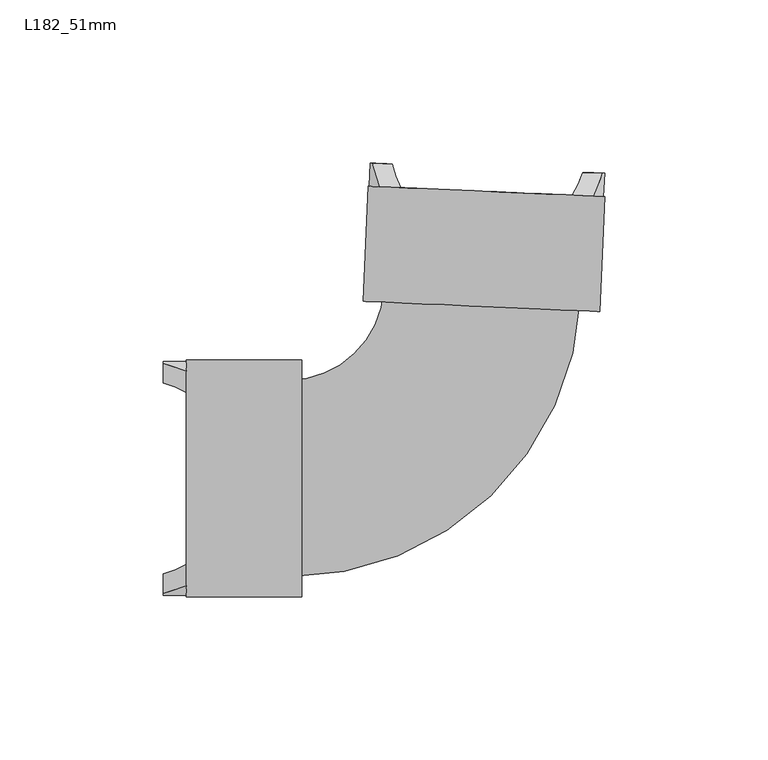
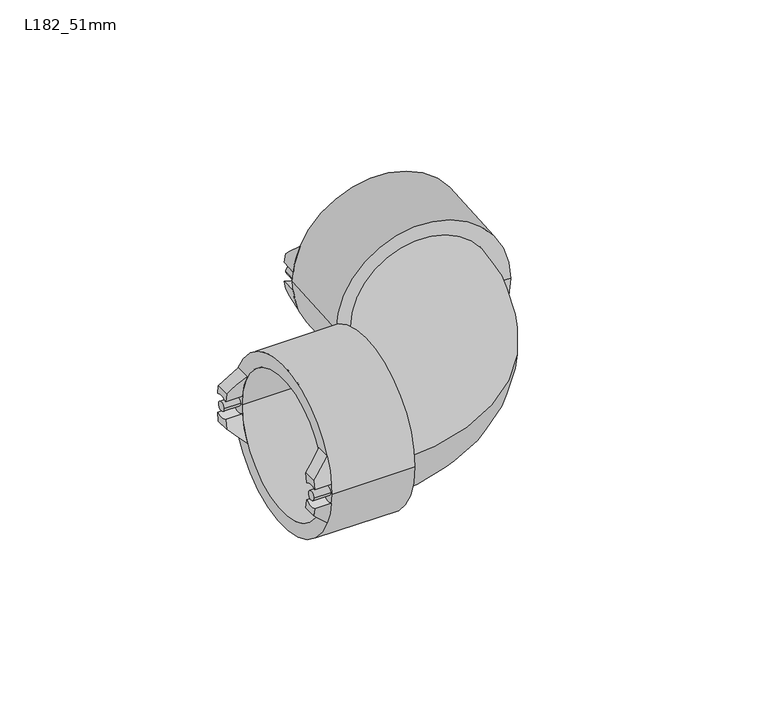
"""IFC4 building model written with IfcOpenShell, lengths in millimetres: pipe fitting geometry, Durapipe_PipeFitting_VulcatheneEnfusion_DoubleSocketShortSweepBend_L18 : L182_51mm."""

from ifc_helpers import new_model, si_unit, point, frame, frame_2d, origin, place, context, project, spatial, polyline, circle_curve, ellipse_curve, trimmed, segment, composite_curve, outline, extrude, source, transform, mapped, element, save
from ifc_brep_helpers import plane_surface, cylinder_surface, revolved_surface, advanced_brep


def l182_51mm_86aa85f2(model_context):
    return source(origin(), model_context, "Body", "SolidModel", [
        advanced_brep(
        [(-25.8725968, 96.3919618, 3.864639), (-31.7170289, 96.6471352, 4.2226571), (-31.0823531, 96.6194246, 7.94), (-25.0620153, 96.356571, 7.94), (-29.0181329, 89.4225348, 15.0), (-32.0267265, 89.5538928, 4.2226571), (-26.1822944, 89.2987194, 3.864639), (-22.4599131, 89.1361967, 15.0)],
        [
            (0, 1, circle_curve(frame((-29.0420472, 96.5303429, 0.0), z_axis=(-0.043619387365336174, -0.9990482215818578, 0.0), x_axis=(0.9990482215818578, -0.043619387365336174, 0.0)), 5.0)),
            (1, 2, circle_curve(frame((4.15133, 95.0810888, 0.0), z_axis=(0.043619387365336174, 0.9990482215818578, 0.0), x_axis=(0.9990482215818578, -0.043619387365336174, 0.0)), 36.15)),
            (2, 3),
            (3, 0, circle_curve(frame((4.15133, 95.0810888, 0.0), z_axis=(-0.043619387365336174, -0.9990482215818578, 0.0), x_axis=(0.9990482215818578, -0.043619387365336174, 0.0)), 30.3)),
            (4, 5, circle_curve(frame((3.8416323, 87.9878464, 0.0), z_axis=(-0.043619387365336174, -0.9990482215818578, 0.0), x_axis=(0.9990482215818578, -0.043619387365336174, 0.0)), 36.15)),
            (5, 6, circle_curve(frame((-29.3517448, 89.4371006, 0.0), z_axis=(0.043619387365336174, 0.9990482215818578, 0.0), x_axis=(0.9990482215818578, -0.043619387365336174, 0.0)), 5.0)),
            (6, 7, circle_curve(frame((3.8416323, 87.9878464, 0.0), z_axis=(0.043619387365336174, 0.9990482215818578, 0.0), x_axis=(0.9990482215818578, -0.043619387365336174, 0.0)), 30.3)),
            (7, 4),
            (6, 0),
            (3, 7, ellipse_curve(frame((4.4996302, 103.0584747, 0.0), z_axis=(0.030756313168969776, 0.7044353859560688, 0.7091014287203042), x_axis=(-0.030930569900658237, -0.7084265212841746, 0.705106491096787)), 42.9722324, 30.3)),
            (4, 2, ellipse_curve(frame((4.4996302, 103.0584747, 0.0), z_axis=(-0.030756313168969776, -0.7044353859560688, -0.7091014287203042), x_axis=(0.030930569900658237, 0.7084265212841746, -0.705106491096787)), 51.2688515, 36.15)),
            (1, 5),
        ],
        [
            plane_surface(frame((-28.7084352, 96.5157771, 15.0), z_axis=(0.043619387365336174, 0.9990482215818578, 0.0), x_axis=(0.9990482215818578, -0.043619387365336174, 0.0))),
            plane_surface(frame((-29.0181329, 89.4225348, 15.0), z_axis=(-0.043619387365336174, -0.9990482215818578, 0.0), x_axis=(-0.9990482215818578, 0.043619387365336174, 0.0))),
            revolved_surface(polyline([(33.441635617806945, 71.2941381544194, 0.0), (36.099946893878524, 132.17947637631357, 0.0)]), (3.8416323, 87.9878464, 0.0), (-0.043619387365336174, -0.9990482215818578, 0.0)),
            cylinder_surface(frame((3.8416323, 87.9878464, 0.0), z_axis=(0.043619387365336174, 0.9990482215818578, 0.0), x_axis=(0.9990482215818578, -0.043619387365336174, 0.0)), 36.15),
            revolved_surface(polyline([(-24.046806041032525, 96.31224605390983, 0.0), (-24.356503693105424, 89.21900363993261, 0.0)]), (-29.3517448, 89.4371006, 0.0), (0.043619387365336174, 0.9990482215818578, 0.0)),
            plane_surface(frame((39.9572255, 86.4110056, 15.0), z_axis=(0.030756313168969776, 0.7044353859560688, 0.7091014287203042), x_axis=(-0.9990482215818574, 0.04361938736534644, 0.0))),
        ],
        [
            (0, [[1, 2, 3, 4]]),
            (1, [[5, 6, 7, 8]]),
            (2, [[-7, 9, -4, 10]]),
            (3, [[-5, 11, -2, 12]]),
            (4, [[-1, -9, -6, -12]]),
            (5, [[-3, -11, -8, -10]]),
        ],
    ),
        advanced_brep(
        [(-31.7170289, 96.6471352, -4.2226571), (-25.8725968, 96.3919618, -3.864639), (-25.0620153, 96.356571, -7.94), (-31.0823531, 96.6194246, -7.94), (-32.0267265, 89.5538928, -4.2226571), (-29.0181329, 89.4225348, -15.0), (-22.4599131, 89.1361967, -15.0), (-26.1822944, 89.2987194, -3.864639)],
        [
            (0, 1, circle_curve(frame((-29.0420472, 96.5303429, 0.0), z_axis=(-0.043619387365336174, -0.9990482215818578, 0.0), x_axis=(0.9990482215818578, -0.043619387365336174, 0.0)), 5.0)),
            (1, 2, circle_curve(frame((4.15133, 95.0810888, 0.0), z_axis=(-0.043619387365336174, -0.9990482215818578, 0.0), x_axis=(0.9990482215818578, -0.043619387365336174, 0.0)), 30.3)),
            (2, 3),
            (3, 0, circle_curve(frame((4.15133, 95.0810888, 0.0), z_axis=(0.043619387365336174, 0.9990482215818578, 0.0), x_axis=(0.9990482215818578, -0.043619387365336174, 0.0)), 36.15)),
            (4, 5, circle_curve(frame((3.8416323, 87.9878464, 0.0), z_axis=(-0.043619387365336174, -0.9990482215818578, 0.0), x_axis=(0.9990482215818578, -0.043619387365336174, 0.0)), 36.15)),
            (5, 6),
            (6, 7, circle_curve(frame((3.8416323, 87.9878464, 0.0), z_axis=(0.043619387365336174, 0.9990482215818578, 0.0), x_axis=(0.9990482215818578, -0.043619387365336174, 0.0)), 30.3)),
            (7, 4, circle_curve(frame((-29.3517448, 89.4371006, 0.0), z_axis=(0.043619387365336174, 0.9990482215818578, 0.0), x_axis=(0.9990482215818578, -0.043619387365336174, 0.0)), 5.0)),
            (6, 2, ellipse_curve(frame((4.4996302, 103.0584747, 0.0), z_axis=(0.03075631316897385, 0.7044353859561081, -0.7091014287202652), x_axis=(-0.03093056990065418, -0.7084265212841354, -0.7051064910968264)), 42.9722324, 30.3)),
            (1, 7),
            (4, 0),
            (3, 5, ellipse_curve(frame((4.4996302, 103.0584747, 0.0), z_axis=(-0.03075631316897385, -0.7044353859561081, 0.7091014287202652), x_axis=(0.03093056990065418, 0.7084265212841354, 0.7051064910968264)), 51.2688515, 36.15)),
        ],
        [
            plane_surface(frame((-28.7084352, 96.5157771, 15.0), z_axis=(0.043619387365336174, 0.9990482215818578, 0.0), x_axis=(0.9990482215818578, -0.043619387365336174, 0.0))),
            plane_surface(frame((-29.0181329, 89.4225348, 15.0), z_axis=(-0.043619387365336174, -0.9990482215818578, 0.0), x_axis=(-0.9990482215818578, 0.043619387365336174, 0.0))),
            revolved_surface(polyline([(33.441635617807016, 71.29413815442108, 0.0), (36.099946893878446, 132.1794763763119, 0.0)]), (3.8416323, 87.9878464, 0.0), (-0.043619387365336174, -0.9990482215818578, 0.0)),
            cylinder_surface(frame((3.8416323, 87.9878464, 0.0), z_axis=(0.043619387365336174, 0.9990482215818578, 0.0), x_axis=(0.9990482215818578, -0.043619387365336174, 0.0)), 36.15),
            revolved_surface(polyline([(-24.046806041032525, 96.31224605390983, 0.0), (-24.356503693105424, 89.21900363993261, 0.0)]), (-29.3517448, 89.4371006, 0.0), (0.043619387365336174, 0.9990482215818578, 0.0)),
            plane_surface(frame((40.2669232, 93.5042479, -7.94), z_axis=(0.03075631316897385, 0.7044353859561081, -0.7091014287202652), x_axis=(-0.9990482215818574, 0.04361938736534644, 0.0))),
        ],
        [
            (0, [[1, 2, 3, 4]]),
            (1, [[5, 6, 7, 8]]),
            (2, [[-7, 9, -2, 10]]),
            (3, [[-5, 11, -4, 12]]),
            (4, [[-1, -11, -8, -10]]),
            (5, [[-3, -9, -6, -12]]),
        ],
    ),
        advanced_brep(
        [(40.0196888, 93.5150424, 4.2226571), (34.1752567, 93.7702158, 3.864639), (33.3646753, 93.8056066, 7.94), (39.3850131, 93.542753, 7.94), (39.7099912, 86.4218001, 4.2226571), (36.7013975, 86.5531581, 15.0), (30.1431778, 86.8394962, 15.0), (33.8655591, 86.6769735, 3.864639)],
        [
            (0, 1, circle_curve(frame((37.3447072, 93.6318347, 0.0), z_axis=(-0.043619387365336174, -0.9990482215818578, 0.0), x_axis=(0.9990482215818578, -0.043619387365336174, 0.0)), 5.0)),
            (1, 2, circle_curve(frame((4.15133, 95.0810888, 0.0), z_axis=(-0.043619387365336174, -0.9990482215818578, 0.0), x_axis=(0.9990482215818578, -0.043619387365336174, 0.0)), 30.3)),
            (2, 3),
            (3, 0, circle_curve(frame((4.15133, 95.0810888, 0.0), z_axis=(0.043619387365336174, 0.9990482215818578, 0.0), x_axis=(0.9990482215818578, -0.043619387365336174, 0.0)), 36.15)),
            (4, 5, circle_curve(frame((3.8416323, 87.9878464, 0.0), z_axis=(-0.043619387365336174, -0.9990482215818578, 0.0), x_axis=(0.9990482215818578, -0.043619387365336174, 0.0)), 36.15)),
            (5, 6),
            (6, 7, circle_curve(frame((3.8416323, 87.9878464, 0.0), z_axis=(0.043619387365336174, 0.9990482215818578, 0.0), x_axis=(0.9990482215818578, -0.043619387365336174, 0.0)), 30.3)),
            (7, 4, circle_curve(frame((37.0350095, 86.5385923, 0.0), z_axis=(0.043619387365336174, 0.9990482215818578, 0.0), x_axis=(0.9990482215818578, -0.043619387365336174, 0.0)), 5.0)),
            (6, 2, ellipse_curve(frame((4.4996302, 103.0584747, 0.0), z_axis=(0.030756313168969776, 0.7044353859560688, 0.7091014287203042), x_axis=(-0.030930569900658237, -0.7084265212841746, 0.705106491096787)), 42.9722324, 30.3)),
            (1, 7),
            (4, 0),
            (3, 5, ellipse_curve(frame((4.4996302, 103.0584747, 0.0), z_axis=(-0.030756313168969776, -0.7044353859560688, -0.7091014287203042), x_axis=(0.030930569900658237, 0.7084265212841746, -0.705106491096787)), 51.2688515, 36.15)),
        ],
        [
            plane_surface(frame((-28.7084352, 96.5157771, 15.0), z_axis=(0.043619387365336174, 0.9990482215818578, 0.0), x_axis=(0.9990482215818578, -0.043619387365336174, 0.0))),
            plane_surface(frame((-29.0181329, 89.4225348, 15.0), z_axis=(-0.043619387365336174, -0.9990482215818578, 0.0), x_axis=(-0.9990482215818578, 0.043619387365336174, 0.0))),
            revolved_surface(polyline([(33.441635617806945, 71.2941381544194, 0.0), (36.099946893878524, 132.17947637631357, 0.0)]), (3.8416323, 87.9878464, 0.0), (-0.043619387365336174, -0.9990482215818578, 0.0)),
            cylinder_surface(frame((3.8416323, 87.9878464, 0.0), z_axis=(0.043619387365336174, 0.9990482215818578, 0.0), x_axis=(0.9990482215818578, -0.043619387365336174, 0.0)), 36.15),
            revolved_surface(polyline([(42.33994825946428, 93.41373776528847, 0.0), (42.03025060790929, 86.32049536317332, 0.0)]), (37.0350095, 86.5385923, 0.0), (0.043619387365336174, 0.9990482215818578, 0.0)),
            plane_surface(frame((39.9572255, 86.4110056, 15.0), z_axis=(0.030756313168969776, 0.7044353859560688, 0.7091014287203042), x_axis=(-0.9990482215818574, 0.04361938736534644, 0.0))),
        ],
        [
            (0, [[1, 2, 3, 4]]),
            (1, [[5, 6, 7, 8]]),
            (2, [[-7, 9, -2, 10]]),
            (3, [[-5, 11, -4, 12]]),
            (4, [[-1, -11, -8, -10]]),
            (5, [[-3, -9, -6, -12]]),
        ],
    ),
        advanced_brep(
        [(34.1752567, 93.7702158, -3.864639), (40.0196888, 93.5150424, -4.2226571), (39.3850131, 93.542753, -7.94), (33.3646753, 93.8056066, -7.94), (36.7013975, 86.5531581, -15.0), (39.7099912, 86.4218001, -4.2226571), (33.8655591, 86.6769735, -3.864639), (30.1431778, 86.8394962, -15.0)],
        [
            (0, 1, circle_curve(frame((37.3447072, 93.6318347, 0.0), z_axis=(-0.043619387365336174, -0.9990482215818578, 0.0), x_axis=(0.9990482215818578, -0.043619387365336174, 0.0)), 5.0)),
            (1, 2, circle_curve(frame((4.15133, 95.0810888, 0.0), z_axis=(0.043619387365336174, 0.9990482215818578, 0.0), x_axis=(0.9990482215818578, -0.043619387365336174, 0.0)), 36.15)),
            (2, 3),
            (3, 0, circle_curve(frame((4.15133, 95.0810888, 0.0), z_axis=(-0.043619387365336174, -0.9990482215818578, 0.0), x_axis=(0.9990482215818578, -0.043619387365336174, 0.0)), 30.3)),
            (4, 5, circle_curve(frame((3.8416323, 87.9878464, 0.0), z_axis=(-0.043619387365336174, -0.9990482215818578, 0.0), x_axis=(0.9990482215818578, -0.043619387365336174, 0.0)), 36.15)),
            (5, 6, circle_curve(frame((37.0350095, 86.5385923, 0.0), z_axis=(0.043619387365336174, 0.9990482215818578, 0.0), x_axis=(0.9990482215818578, -0.043619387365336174, 0.0)), 5.0)),
            (6, 7, circle_curve(frame((3.8416323, 87.9878464, 0.0), z_axis=(0.043619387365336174, 0.9990482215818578, 0.0), x_axis=(0.9990482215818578, -0.043619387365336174, 0.0)), 30.3)),
            (7, 4),
            (6, 0),
            (3, 7, ellipse_curve(frame((4.4996302, 103.0584747, 0.0), z_axis=(0.03075631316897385, 0.7044353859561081, -0.7091014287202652), x_axis=(-0.03093056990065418, -0.7084265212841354, -0.7051064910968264)), 42.9722324, 30.3)),
            (4, 2, ellipse_curve(frame((4.4996302, 103.0584747, 0.0), z_axis=(-0.03075631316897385, -0.7044353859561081, 0.7091014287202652), x_axis=(0.03093056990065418, 0.7084265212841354, 0.7051064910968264)), 51.2688515, 36.15)),
            (1, 5),
        ],
        [
            plane_surface(frame((-28.7084352, 96.5157771, 15.0), z_axis=(0.043619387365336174, 0.9990482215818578, 0.0), x_axis=(0.9990482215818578, -0.043619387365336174, 0.0))),
            plane_surface(frame((-29.0181329, 89.4225348, 15.0), z_axis=(-0.043619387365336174, -0.9990482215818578, 0.0), x_axis=(-0.9990482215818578, 0.043619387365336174, 0.0))),
            revolved_surface(polyline([(33.441635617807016, 71.29413815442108, 0.0), (36.099946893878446, 132.1794763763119, 0.0)]), (3.8416323, 87.9878464, 0.0), (-0.043619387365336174, -0.9990482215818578, 0.0)),
            cylinder_surface(frame((3.8416323, 87.9878464, 0.0), z_axis=(0.043619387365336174, 0.9990482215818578, 0.0), x_axis=(0.9990482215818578, -0.043619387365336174, 0.0)), 36.15),
            revolved_surface(polyline([(42.33994825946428, 93.41373776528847, 0.0), (42.03025060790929, 86.32049536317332, 0.0)]), (37.0350095, 86.5385923, 0.0), (0.043619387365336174, 0.9990482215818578, 0.0)),
            plane_surface(frame((40.2669232, 93.5042479, -7.94), z_axis=(0.03075631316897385, 0.7044353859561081, -0.7091014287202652), x_axis=(-0.9990482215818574, 0.04361938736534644, 0.0))),
        ],
        [
            (0, [[1, 2, 3, 4]]),
            (1, [[5, 6, 7, 8]]),
            (2, [[-7, 9, -4, 10]]),
            (3, [[-5, 11, -2, 12]]),
            (4, [[-1, -9, -6, -12]]),
            (5, [[-3, -11, -8, -10]]),
        ],
    ),
        extrude(outline(composite_curve([segment(trimmed(circle_curve(frame_2d((0.0, -2.0)), 2.0), [point((0.0, -4.0))], [point((0.0, 0.0))], False, "CARTESIAN"), True, "CONTINUOUS"), segment(trimmed(circle_curve(frame_2d((0.0, -2.0)), 2.0), [point((0.0, 0.0))], [point((0.0, -4.0))], False, "CARTESIAN"), True, "CONTINUOUS")], self_intersect=False)), frame((-27.3536484, 89.3498618, 0.0), z_axis=(0.043619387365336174, 0.9990482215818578, 0.0), x_axis=(0.0, 0.0, 1.0)), (0.0, 0.0, 1.0), 7.1),
        extrude(outline(composite_curve([segment(trimmed(circle_curve(frame_2d((0.0, 64.45)), 2.0), [point((0.0, 62.4500001))], [point((0.0, 66.45))], False, "CARTESIAN"), True, "CONTINUOUS"), segment(trimmed(circle_curve(frame_2d((0.0, 64.45)), 2.0), [point((0.0, 66.45))], [point((0.0, 62.4500001))], False, "CARTESIAN"), True, "CONTINUOUS")], self_intersect=False)), frame((-27.3536484, 89.3498618, 0.0), z_axis=(0.043619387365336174, 0.9990482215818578, 0.0), x_axis=(0.0, 0.0, 1.0)), (0.0, 0.0, 1.0), 7.1),
        advanced_brep(
        [(-23.5032702, 57.7518363, 0.0), (28.4472373, 55.4836282, 0.0), (32.5932875, 55.3026077, 0.0), (-27.6493203, 57.9328568, 0.0), (-23.6733858, 53.8555483, 0.0), (28.2771217, 51.5873401, 0.0), (-33.9635825, 54.304828, 0.0), (38.5673184, 51.1380604, 0.0), (-32.4238181, 89.5712302, 0.0), (40.1070828, 86.4044627, 0.0), (-26.2796715, 89.302971, 0.0), (33.9629362, 86.6727219, 0.0)],
        [
            (0, 1, circle_curve(frame((2.4719836, 56.6177323, 0.0), z_axis=(-0.043619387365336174, -0.9990482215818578, 0.0), x_axis=(0.9990482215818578, -0.043619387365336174, 0.0)), 26.0)),
            (1, 2),
            (2, 3, circle_curve(frame((2.4719836, 56.6177323, 0.0), z_axis=(0.043619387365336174, 0.9990482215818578, 0.0), x_axis=(0.9990482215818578, -0.043619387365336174, 0.0)), 30.15)),
            (3, 0),
            (1, 0, circle_curve(frame((2.4719836, 56.6177323, 0.0), z_axis=(-0.043619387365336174, -0.9990482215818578, 0.0), x_axis=(0.9990482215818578, -0.043619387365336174, 0.0)), 26.0)),
            (3, 2, circle_curve(frame((2.4719836, 56.6177323, 0.0), z_axis=(0.043619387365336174, 0.9990482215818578, 0.0), x_axis=(0.9990482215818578, -0.043619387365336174, 0.0)), 30.15)),
            (4, 5, circle_curve(frame((2.301868, 52.7214442, 0.0), z_axis=(-0.043619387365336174, -0.9990482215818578, 0.0), x_axis=(0.9990482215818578, -0.043619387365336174, 0.0)), 26.0)),
            (5, 1),
            (0, 4),
            (5, 4, circle_curve(frame((2.301868, 52.7214442, 0.0), z_axis=(-0.043619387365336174, -0.9990482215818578, 0.0), x_axis=(0.9990482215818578, -0.043619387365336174, 0.0)), 26.0)),
            (6, 7, circle_curve(frame((2.301868, 52.7214442, 0.0), z_axis=(-0.043619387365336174, -0.9990482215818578, 0.0), x_axis=(0.9990482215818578, -0.043619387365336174, 0.0)), 36.3)),
            (7, 5),
            (4, 6),
            (7, 6, circle_curve(frame((2.301868, 52.7214442, 0.0), z_axis=(-0.043619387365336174, -0.9990482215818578, 0.0), x_axis=(0.9990482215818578, -0.043619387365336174, 0.0)), 36.3)),
            (8, 9, circle_curve(frame((3.8416323, 87.9878464, 0.0), z_axis=(-0.043619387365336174, -0.9990482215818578, 0.0), x_axis=(0.9990482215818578, -0.043619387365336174, 0.0)), 36.3)),
            (9, 7),
            (6, 8),
            (9, 8, circle_curve(frame((3.8416323, 87.9878464, 0.0), z_axis=(-0.043619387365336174, -0.9990482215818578, 0.0), x_axis=(0.9990482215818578, -0.043619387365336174, 0.0)), 36.3)),
            (10, 11, circle_curve(frame((3.8416323, 87.9878464, 0.0), z_axis=(-0.043619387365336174, -0.9990482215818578, 0.0), x_axis=(0.9990482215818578, -0.043619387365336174, 0.0)), 30.15)),
            (11, 9),
            (8, 10),
            (11, 10, circle_curve(frame((3.8416323, 87.9878464, 0.0), z_axis=(-0.043619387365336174, -0.9990482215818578, 0.0), x_axis=(0.9990482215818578, -0.043619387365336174, 0.0)), 30.15)),
            (2, 11),
            (10, 3),
        ],
        [
            plane_surface(frame((2.4719836, 56.6177323, 0.0), z_axis=(0.043619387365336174, 0.9990482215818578, 0.0), x_axis=(0.9990482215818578, -0.043619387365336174, 0.0))),
            revolved_surface(polyline([(28.44723728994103, 55.4836282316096, 0.0), (28.277121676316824, 51.58734010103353, 0.0)]), (113.5000142, 2599.5777161, 0.0), (0.043619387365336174, 0.9990482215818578, 0.0)),
            plane_surface(frame((2.301868, 52.7214442, 0.0), z_axis=(-0.043619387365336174, -0.9990482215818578, 0.0), x_axis=(0.9990482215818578, -0.043619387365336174, 0.0))),
            cylinder_surface(frame((113.5000142, 2599.5777161, 0.0), z_axis=(0.043619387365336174, 0.9990482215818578, 0.0), x_axis=(0.9990482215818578, -0.043619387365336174, 0.0)), 36.3),
            plane_surface(frame((3.8416323, 87.9878464, 0.0), z_axis=(0.043619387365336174, 0.9990482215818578, 0.0), x_axis=(0.9990482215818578, -0.043619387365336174, 0.0))),
            revolved_surface(polyline([(33.96293617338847, 86.67272194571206, 0.0), (32.59328740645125, 55.30260770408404, 0.0)]), (113.5000142, 2599.5777161, 0.0), (0.043619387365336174, 0.9990482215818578, 0.0)),
        ],
        [
            (0, [[1, 2, 3, 4]]),
            (0, [[5, -4, 6, -2]]),
            (1, [[7, 8, -1, 9]]),
            (1, [[10, -9, -5, -8]]),
            (2, [[11, 12, -7, 13]]),
            (2, [[14, -13, -10, -12]]),
            (3, [[15, 16, -11, 17]]),
            (3, [[18, -17, -14, -16]]),
            (4, [[19, 20, -15, 21]]),
            (4, [[22, -21, -18, -20]]),
            (5, [[-3, 23, -19, 24]]),
            (5, [[-6, -24, -22, -23]]),
        ],
    ),
        advanced_brep(
        [(-95.1716711, 30.0525301, -3.864639), (-95.1716711, 35.9025301, -4.2226571), (-95.1716711, 35.2672497, -7.94), (-95.1716711, 29.2411764, -7.94), (-88.0716711, 32.8910702, -15.0), (-88.0716711, 35.9025301, -4.2226571), (-88.0716711, 30.0525301, -3.864639), (-88.0716711, 26.3266025, -15.0)],
        [
            (0, 1, circle_curve(frame((-95.1716711, 33.225, 0.0), z_axis=(1.0, 0.0, 0.0), x_axis=(0.0, -1.0, 0.0)), 5.0)),
            (1, 2, circle_curve(frame((-95.1716711, 0.0, 0.0), z_axis=(-1.0, 0.0, 0.0), x_axis=(0.0, -1.0, 0.0)), 36.15)),
            (2, 3),
            (3, 0, circle_curve(frame((-95.1716711, 0.0, 0.0), z_axis=(1.0, 0.0, 0.0), x_axis=(0.0, -1.0, 0.0)), 30.3)),
            (4, 5, circle_curve(frame((-88.0716711, 0.0, 0.0), z_axis=(1.0, 0.0, 0.0), x_axis=(0.0, -1.0, 0.0)), 36.15)),
            (5, 6, circle_curve(frame((-88.0716711, 33.225, 0.0), z_axis=(-1.0, 0.0, 0.0), x_axis=(0.0, -1.0, 0.0)), 5.0)),
            (6, 7, circle_curve(frame((-88.0716711, 0.0, 0.0), z_axis=(-1.0, 0.0, 0.0), x_axis=(0.0, -1.0, 0.0)), 30.3)),
            (7, 4),
            (6, 0),
            (3, 7, ellipse_curve(frame((-103.156657, 0.0, 0.0), z_axis=(-0.705106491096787, 0.0, -0.7091014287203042), x_axis=(0.7091014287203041, 0.0, -0.705106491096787)), 42.9722324, 30.3)),
            (4, 2, ellipse_curve(frame((-103.156657, 0.0, 0.0), z_axis=(0.705106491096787, 0.0, 0.7091014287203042), x_axis=(-0.7091014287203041, 0.0, 0.705106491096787)), 51.2688515, 36.15)),
            (1, 5),
        ],
        [
            plane_surface(frame((-95.1716711, 32.8910702, -15.0), z_axis=(-1.0, 0.0, 0.0), x_axis=(0.0, -1.0, 0.0))),
            plane_surface(frame((-88.0716711, 32.8910702, -15.0), z_axis=(1.0, 0.0, 0.0), x_axis=(0.0, 1.0, 0.0))),
            revolved_surface(polyline([(-72.68498560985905, -30.3, 0.0), (-133.62832839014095, -30.3, 0.0)]), (-88.0716711, 0.0, 0.0), (1.0, 0.0, 0.0)),
            cylinder_surface(frame((-88.0716711, 0.0, 0.0), z_axis=(-1.0, 0.0, 0.0), x_axis=(0.0, -1.0, 0.0)), 36.15),
            revolved_surface(polyline([(-95.1716711, 28.225, 0.0), (-88.0716711, 28.225, 0.0)]), (-88.0716711, 33.225, 0.0), (-1.0, 0.0, 0.0)),
            plane_surface(frame((-88.0716711, -36.15, -15.0), z_axis=(-0.705106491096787, 0.0, -0.7091014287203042), x_axis=(0.0, 1.0, 0.0))),
        ],
        [
            (0, [[1, 2, 3, 4]]),
            (1, [[5, 6, 7, 8]]),
            (2, [[-7, 9, -4, 10]]),
            (3, [[-5, 11, -2, 12]]),
            (4, [[-1, -9, -6, -12]]),
            (5, [[-3, -11, -8, -10]]),
        ],
    ),
        advanced_brep(
        [(-95.1716711, 35.9025301, 4.2226571), (-95.1716711, 30.0525301, 3.864639), (-95.1716711, 29.2411764, 7.94), (-95.1716711, 35.2672497, 7.94), (-88.0716711, 35.9025301, 4.2226571), (-88.0716711, 32.8910702, 15.0), (-88.0716711, 26.3266025, 15.0), (-88.0716711, 30.0525301, 3.864639)],
        [
            (0, 1, circle_curve(frame((-95.1716711, 33.225, 0.0), z_axis=(1.0, 0.0, 0.0), x_axis=(0.0, -1.0, 0.0)), 5.0)),
            (1, 2, circle_curve(frame((-95.1716711, 0.0, 0.0), z_axis=(1.0, 0.0, 0.0), x_axis=(0.0, -1.0, 0.0)), 30.3)),
            (2, 3),
            (3, 0, circle_curve(frame((-95.1716711, 0.0, 0.0), z_axis=(-1.0, 0.0, 0.0), x_axis=(0.0, -1.0, 0.0)), 36.15)),
            (4, 5, circle_curve(frame((-88.0716711, 0.0, 0.0), z_axis=(1.0, 0.0, 0.0), x_axis=(0.0, -1.0, 0.0)), 36.15)),
            (5, 6),
            (6, 7, circle_curve(frame((-88.0716711, 0.0, 0.0), z_axis=(-1.0, 0.0, 0.0), x_axis=(0.0, -1.0, 0.0)), 30.3)),
            (7, 4, circle_curve(frame((-88.0716711, 33.225, 0.0), z_axis=(-1.0, 0.0, 0.0), x_axis=(0.0, -1.0, 0.0)), 5.0)),
            (6, 2, ellipse_curve(frame((-103.156657, 0.0, 0.0), z_axis=(-0.7051064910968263, 0.0, 0.7091014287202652), x_axis=(0.7091014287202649, 0.0, 0.7051064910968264)), 42.9722324, 30.3)),
            (1, 7),
            (4, 0),
            (3, 5, ellipse_curve(frame((-103.156657, 0.0, 0.0), z_axis=(0.7051064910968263, 0.0, -0.7091014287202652), x_axis=(-0.7091014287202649, 0.0, -0.7051064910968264)), 51.2688515, 36.15)),
        ],
        [
            plane_surface(frame((-95.1716711, 32.8910702, -15.0), z_axis=(-1.0, 0.0, 0.0), x_axis=(0.0, -1.0, 0.0))),
            plane_surface(frame((-88.0716711, 32.8910702, -15.0), z_axis=(1.0, 0.0, 0.0), x_axis=(0.0, 1.0, 0.0))),
            revolved_surface(polyline([(-72.68498560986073, -30.3, 0.0), (-133.62832839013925, -30.3, 0.0)]), (-88.0716711, 0.0, 0.0), (1.0, 0.0, 0.0)),
            cylinder_surface(frame((-88.0716711, 0.0, 0.0), z_axis=(-1.0, 0.0, 0.0), x_axis=(0.0, -1.0, 0.0)), 36.15),
            revolved_surface(polyline([(-95.1716711, 28.225, 0.0), (-88.0716711, 28.225, 0.0)]), (-88.0716711, 33.225, 0.0), (-1.0, 0.0, 0.0)),
            plane_surface(frame((-95.1716711, -36.15, 7.94), z_axis=(-0.7051064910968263, 0.0, 0.7091014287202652), x_axis=(0.0, 1.0, 0.0))),
        ],
        [
            (0, [[1, 2, 3, 4]]),
            (1, [[5, 6, 7, 8]]),
            (2, [[-7, 9, -2, 10]]),
            (3, [[-5, 11, -4, 12]]),
            (4, [[-1, -11, -8, -10]]),
            (5, [[-3, -9, -6, -12]]),
        ],
    ),
        advanced_brep(
        [(-95.1716711, -35.9025301, -4.2226571), (-95.1716711, -30.0525301, -3.864639), (-95.1716711, -29.2411764, -7.94), (-95.1716711, -35.2672497, -7.94), (-88.0716711, -35.9025301, -4.2226571), (-88.0716711, -32.8910702, -15.0), (-88.0716711, -26.3266025, -15.0), (-88.0716711, -30.0525301, -3.864639)],
        [
            (0, 1, circle_curve(frame((-95.1716711, -33.225, 0.0), z_axis=(1.0, 0.0, 0.0), x_axis=(0.0, -1.0, 0.0)), 5.0)),
            (1, 2, circle_curve(frame((-95.1716711, 0.0, 0.0), z_axis=(1.0, 0.0, 0.0), x_axis=(0.0, -1.0, 0.0)), 30.3)),
            (2, 3),
            (3, 0, circle_curve(frame((-95.1716711, 0.0, 0.0), z_axis=(-1.0, 0.0, 0.0), x_axis=(0.0, -1.0, 0.0)), 36.15)),
            (4, 5, circle_curve(frame((-88.0716711, 0.0, 0.0), z_axis=(1.0, 0.0, 0.0), x_axis=(0.0, -1.0, 0.0)), 36.15)),
            (5, 6),
            (6, 7, circle_curve(frame((-88.0716711, 0.0, 0.0), z_axis=(-1.0, 0.0, 0.0), x_axis=(0.0, -1.0, 0.0)), 30.3)),
            (7, 4, circle_curve(frame((-88.0716711, -33.225, 0.0), z_axis=(-1.0, 0.0, 0.0), x_axis=(0.0, -1.0, 0.0)), 5.0)),
            (6, 2, ellipse_curve(frame((-103.156657, 0.0, 0.0), z_axis=(-0.705106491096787, 0.0, -0.7091014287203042), x_axis=(0.7091014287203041, 0.0, -0.705106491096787)), 42.9722324, 30.3)),
            (1, 7),
            (4, 0),
            (3, 5, ellipse_curve(frame((-103.156657, 0.0, 0.0), z_axis=(0.705106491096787, 0.0, 0.7091014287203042), x_axis=(-0.7091014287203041, 0.0, 0.705106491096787)), 51.2688515, 36.15)),
        ],
        [
            plane_surface(frame((-95.1716711, 32.8910702, -15.0), z_axis=(-1.0, 0.0, 0.0), x_axis=(0.0, -1.0, 0.0))),
            plane_surface(frame((-88.0716711, 32.8910702, -15.0), z_axis=(1.0, 0.0, 0.0), x_axis=(0.0, 1.0, 0.0))),
            revolved_surface(polyline([(-72.68498560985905, -30.3, 0.0), (-133.62832839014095, -30.3, 0.0)]), (-88.0716711, 0.0, 0.0), (1.0, 0.0, 0.0)),
            cylinder_surface(frame((-88.0716711, 0.0, 0.0), z_axis=(-1.0, 0.0, 0.0), x_axis=(0.0, -1.0, 0.0)), 36.15),
            revolved_surface(polyline([(-95.1716711, -38.225, 0.0), (-88.0716711, -38.225, 0.0)]), (-88.0716711, -33.225, 0.0), (-1.0, 0.0, 0.0)),
            plane_surface(frame((-88.0716711, -36.15, -15.0), z_axis=(-0.705106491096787, 0.0, -0.7091014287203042), x_axis=(0.0, 1.0, 0.0))),
        ],
        [
            (0, [[1, 2, 3, 4]]),
            (1, [[5, 6, 7, 8]]),
            (2, [[-7, 9, -2, 10]]),
            (3, [[-5, 11, -4, 12]]),
            (4, [[-1, -11, -8, -10]]),
            (5, [[-3, -9, -6, -12]]),
        ],
    ),
        advanced_brep(
        [(-95.1716711, -30.0525301, 3.864639), (-95.1716711, -35.9025301, 4.2226571), (-95.1716711, -35.2672497, 7.94), (-95.1716711, -29.2411764, 7.94), (-88.0716711, -32.8910702, 15.0), (-88.0716711, -35.9025301, 4.2226571), (-88.0716711, -30.0525301, 3.864639), (-88.0716711, -26.3266025, 15.0)],
        [
            (0, 1, circle_curve(frame((-95.1716711, -33.225, 0.0), z_axis=(1.0, 0.0, 0.0), x_axis=(0.0, -1.0, 0.0)), 5.0)),
            (1, 2, circle_curve(frame((-95.1716711, 0.0, 0.0), z_axis=(-1.0, 0.0, 0.0), x_axis=(0.0, -1.0, 0.0)), 36.15)),
            (2, 3),
            (3, 0, circle_curve(frame((-95.1716711, 0.0, 0.0), z_axis=(1.0, 0.0, 0.0), x_axis=(0.0, -1.0, 0.0)), 30.3)),
            (4, 5, circle_curve(frame((-88.0716711, 0.0, 0.0), z_axis=(1.0, 0.0, 0.0), x_axis=(0.0, -1.0, 0.0)), 36.15)),
            (5, 6, circle_curve(frame((-88.0716711, -33.225, 0.0), z_axis=(-1.0, 0.0, 0.0), x_axis=(0.0, -1.0, 0.0)), 5.0)),
            (6, 7, circle_curve(frame((-88.0716711, 0.0, 0.0), z_axis=(-1.0, 0.0, 0.0), x_axis=(0.0, -1.0, 0.0)), 30.3)),
            (7, 4),
            (6, 0),
            (3, 7, ellipse_curve(frame((-103.156657, 0.0, 0.0), z_axis=(-0.7051064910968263, 0.0, 0.7091014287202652), x_axis=(0.7091014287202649, 0.0, 0.7051064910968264)), 42.9722324, 30.3)),
            (4, 2, ellipse_curve(frame((-103.156657, 0.0, 0.0), z_axis=(0.7051064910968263, 0.0, -0.7091014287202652), x_axis=(-0.7091014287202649, 0.0, -0.7051064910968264)), 51.2688515, 36.15)),
            (1, 5),
        ],
        [
            plane_surface(frame((-95.1716711, 32.8910702, -15.0), z_axis=(-1.0, 0.0, 0.0), x_axis=(0.0, -1.0, 0.0))),
            plane_surface(frame((-88.0716711, 32.8910702, -15.0), z_axis=(1.0, 0.0, 0.0), x_axis=(0.0, 1.0, 0.0))),
            revolved_surface(polyline([(-72.68498560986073, -30.3, 0.0), (-133.62832839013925, -30.3, 0.0)]), (-88.0716711, 0.0, 0.0), (1.0, 0.0, 0.0)),
            cylinder_surface(frame((-88.0716711, 0.0, 0.0), z_axis=(-1.0, 0.0, 0.0), x_axis=(0.0, -1.0, 0.0)), 36.15),
            revolved_surface(polyline([(-95.1716711, -38.225, 0.0), (-88.0716711, -38.225, 0.0)]), (-88.0716711, -33.225, 0.0), (-1.0, 0.0, 0.0)),
            plane_surface(frame((-95.1716711, -36.15, 7.94), z_axis=(-0.7051064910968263, 0.0, 0.7091014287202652), x_axis=(0.0, 1.0, 0.0))),
        ],
        [
            (0, [[1, 2, 3, 4]]),
            (1, [[5, 6, 7, 8]]),
            (2, [[-7, 9, -4, 10]]),
            (3, [[-5, 11, -2, 12]]),
            (4, [[-1, -9, -6, -12]]),
            (5, [[-3, -11, -8, -10]]),
        ],
    ),
        extrude(outline(composite_curve([segment(trimmed(circle_curve(frame_2d((33.225, 0.0)), 2.0), [point((35.225, 0.0))], [point((31.225, 0.0))], False, "CARTESIAN"), True, "CONTINUOUS"), segment(trimmed(circle_curve(frame_2d((33.225, 0.0)), 2.0), [point((31.225, 0.0))], [point((35.225, 0.0))], False, "CARTESIAN"), True, "CONTINUOUS")], self_intersect=False)), frame((-95.1716711, 0.0, 0.0), z_axis=(1.0, 0.0, 0.0), x_axis=(0.0, 1.0, 0.0)), (0.0, 0.0, 1.0), 7.1),
        extrude(outline(composite_curve([segment(trimmed(circle_curve(frame_2d((-33.225, 0.0)), 2.0), [point((-31.225, 0.0))], [point((-35.225, 0.0))], False, "CARTESIAN"), True, "CONTINUOUS"), segment(trimmed(circle_curve(frame_2d((-33.225, 0.0)), 2.0), [point((-35.225, 0.0))], [point((-31.225, 0.0))], False, "CARTESIAN"), True, "CONTINUOUS")], self_intersect=False)), frame((-95.1716711, 0.0, 0.0), z_axis=(1.0, 0.0, 0.0), x_axis=(0.0, 1.0, 0.0)), (0.0, 0.0, 1.0), 7.1),
        advanced_brep(
        [(-56.6716711, 26.0, 0.0), (-56.6716711, -26.0, 0.0), (-56.6716711, -30.15, 0.0), (-56.6716711, 30.15, 0.0), (-52.7716711, 26.0, 0.0), (-52.7716711, -26.0, 0.0), (-52.7716711, 36.3, 0.0), (-52.7716711, -36.3, 0.0), (-88.0716711, 36.3, 0.0), (-88.0716711, -36.3, 0.0), (-88.0716711, 30.15, 0.0), (-88.0716711, -30.15, 0.0)],
        [
            (0, 1, circle_curve(frame((-56.6716711, 0.0, 0.0), z_axis=(1.0, 0.0, 0.0), x_axis=(0.0, -1.0, 0.0)), 26.0)),
            (1, 2),
            (2, 3, circle_curve(frame((-56.6716711, 0.0, 0.0), z_axis=(-1.0, 0.0, 0.0), x_axis=(0.0, -1.0, 0.0)), 30.15)),
            (3, 0),
            (1, 0, circle_curve(frame((-56.6716711, 0.0, 0.0), z_axis=(1.0, 0.0, 0.0), x_axis=(0.0, -1.0, 0.0)), 26.0)),
            (3, 2, circle_curve(frame((-56.6716711, 0.0, 0.0), z_axis=(-1.0, 0.0, 0.0), x_axis=(0.0, -1.0, 0.0)), 30.15)),
            (4, 5, circle_curve(frame((-52.7716711, 0.0, 0.0), z_axis=(1.0, 0.0, 0.0), x_axis=(0.0, -1.0, 0.0)), 26.0)),
            (5, 1),
            (0, 4),
            (5, 4, circle_curve(frame((-52.7716711, 0.0, 0.0), z_axis=(1.0, 0.0, 0.0), x_axis=(0.0, -1.0, 0.0)), 26.0)),
            (6, 7, circle_curve(frame((-52.7716711, 0.0, 0.0), z_axis=(1.0, 0.0, 0.0), x_axis=(0.0, -1.0, 0.0)), 36.3)),
            (7, 5),
            (4, 6),
            (7, 6, circle_curve(frame((-52.7716711, 0.0, 0.0), z_axis=(1.0, 0.0, 0.0), x_axis=(0.0, -1.0, 0.0)), 36.3)),
            (8, 9, circle_curve(frame((-88.0716711, 0.0, 0.0), z_axis=(1.0, 0.0, 0.0), x_axis=(0.0, -1.0, 0.0)), 36.3)),
            (9, 7),
            (6, 8),
            (9, 8, circle_curve(frame((-88.0716711, 0.0, 0.0), z_axis=(1.0, 0.0, 0.0), x_axis=(0.0, -1.0, 0.0)), 36.3)),
            (10, 11, circle_curve(frame((-88.0716711, 0.0, 0.0), z_axis=(1.0, 0.0, 0.0), x_axis=(0.0, -1.0, 0.0)), 30.15)),
            (11, 9),
            (8, 10),
            (11, 10, circle_curve(frame((-88.0716711, 0.0, 0.0), z_axis=(1.0, 0.0, 0.0), x_axis=(0.0, -1.0, 0.0)), 30.15)),
            (2, 11),
            (10, 3),
        ],
        [
            plane_surface(frame((-56.6716711, 0.0, 0.0), z_axis=(-1.0, 0.0, 0.0), x_axis=(0.0, -1.0, 0.0))),
            revolved_surface(polyline([(-56.67167109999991, -26.0, 0.0), (-52.77167109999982, -26.0, 0.0)]), (-2602.0542952, 0.0, 0.0), (-1.0, 0.0, 0.0)),
            plane_surface(frame((-52.7716711, 0.0, 0.0), z_axis=(1.0, 0.0, 0.0), x_axis=(0.0, -1.0, 0.0))),
            cylinder_surface(frame((-2602.0542952, 0.0, 0.0), z_axis=(-1.0, 0.0, 0.0), x_axis=(0.0, -1.0, 0.0)), 36.3),
            plane_surface(frame((-88.0716711, 0.0, 0.0), z_axis=(-1.0, 0.0, 0.0), x_axis=(0.0, -1.0, 0.0))),
            revolved_surface(polyline([(-88.0716711, -30.15, 0.0), (-56.67167109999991, -30.15, 0.0)]), (-2602.0542952, 0.0, 0.0), (-1.0, 0.0, 0.0)),
        ],
        [
            (0, [[1, 2, 3, 4]]),
            (0, [[5, -4, 6, -2]]),
            (1, [[7, 8, -1, 9]]),
            (1, [[10, -9, -5, -8]]),
            (2, [[11, 12, -7, 13]]),
            (2, [[14, -13, -10, -12]]),
            (3, [[15, 16, -11, 17]]),
            (3, [[18, -17, -14, -16]]),
            (4, [[19, 20, -15, 21]]),
            (4, [[22, -21, -18, -20]]),
            (5, [[-3, 23, -19, 24]]),
            (5, [[-6, -24, -22, -23]]),
        ],
    ),
        advanced_brep(
        [(-56.6716711, -30.15, 0.0), (-56.6716711, 30.15, 0.0), (-56.6716711, -26.0, 0.0), (-56.6716711, 26.0, 0.0), (32.5932875, 55.3026077, 0.0), (-27.6493203, 57.9328568, 0.0), (28.4472373, 55.4836282, 0.0), (-23.5032702, 57.7518363, 0.0)],
        [
            (0, 1, circle_curve(frame((-56.6716711, 0.0, 0.0), z_axis=(-1.0, 0.0, 0.0), x_axis=(0.0, 1.0, 0.0)), 30.15)),
            (1, 0, circle_curve(frame((-56.6716711, 0.0, 0.0), z_axis=(-1.0, 0.0, 0.0), x_axis=(0.0, 1.0, 0.0)), 30.15)),
            (2, 3, circle_curve(frame((-56.6716711, 0.0, 0.0), z_axis=(1.0, 0.0, 0.0), x_axis=(0.0, 1.0, 0.0)), 26.0)),
            (3, 2, circle_curve(frame((-56.6716711, 0.0, 0.0), z_axis=(1.0, 0.0, 0.0), x_axis=(0.0, 1.0, 0.0)), 26.0)),
            (4, 5, circle_curve(frame((2.4719836, 56.6177323, 0.0), z_axis=(0.04361938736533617, 0.9990482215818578, 0.0), x_axis=(-0.9990482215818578, 0.04361938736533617, 0.0)), 30.15)),
            (5, 4, circle_curve(frame((2.4719836, 56.6177323, 0.0), z_axis=(0.04361938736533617, 0.9990482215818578, 0.0), x_axis=(-0.9990482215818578, 0.04361938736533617, 0.0)), 30.15)),
            (6, 7, circle_curve(frame((2.4719836, 56.6177323, 0.0), z_axis=(-0.04361938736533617, -0.9990482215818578, 0.0), x_axis=(-0.9990482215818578, 0.04361938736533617, 0.0)), 26.0)),
            (7, 6, circle_curve(frame((2.4719836, 56.6177323, 0.0), z_axis=(-0.04361938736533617, -0.9990482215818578, 0.0), x_axis=(-0.9990482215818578, 0.04361938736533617, 0.0)), 26.0)),
            (7, 3, circle_curve(frame((-56.6716711, 59.2, 0.0), z_axis=(0.0, 0.0, -1.0), x_axis=(0.0, -1.0, 0.0)), 33.2)),
            (2, 6, circle_curve(frame((-56.6716711, 59.2, 0.0), z_axis=(0.0, 0.0, 1.0), x_axis=(0.0, -1.0, 0.0)), 85.2)),
            (5, 1, circle_curve(frame((-56.6716711, 59.2, 0.0), z_axis=(0.0, 0.0, -1.0), x_axis=(0.0, -1.0, 0.0)), 29.05)),
            (0, 4, circle_curve(frame((-56.6716711, 59.2, 0.0), z_axis=(0.0, 0.0, 1.0), x_axis=(0.0, -1.0, 0.0)), 89.35)),
        ],
        [
            plane_surface(frame((-56.6716711, 0.0, 0.0), z_axis=(-1.0, 0.0, 0.0), x_axis=(0.0, 0.0, 1.0))),
            plane_surface(frame((2.4719836, 56.6177323, 0.0), z_axis=(0.043619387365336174, 0.9990482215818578, 0.0), x_axis=(0.0, 0.0, 1.0))),
            revolved_surface(trimmed(ellipse_curve(frame((-56.6716711, 0.0, 0.0), z_axis=(1.0, 0.0, 0.0), x_axis=(0.0, 1.0, 0.0)), 26.0, 26.0), [point((-56.6716711, -26.0, 0.0))], [point((-56.6716711, 26.0, 0.0))], True, "CARTESIAN"), (-56.6716711, 59.2, 0.0), (0.0, 0.0, 1.0)),
            revolved_surface(trimmed(ellipse_curve(frame((-56.6716711, 0.0, 0.0), z_axis=(1.0, 0.0, 0.0), x_axis=(0.0, 1.0, 0.0)), 26.0, 26.0), [point((-56.6716711, 26.0, 0.0))], [point((-56.6716711, -26.0, 0.0))], True, "CARTESIAN"), (-56.6716711, 59.2, 0.0), (0.0, 0.0, 1.0)),
            revolved_surface(trimmed(ellipse_curve(frame((-56.6716711, 0.0, 0.0), z_axis=(-1.0, 0.0, 0.0), x_axis=(0.0, 1.0, 0.0)), 30.15, 30.15), [point((-56.6716711, -30.15, 0.0))], [point((-56.6716711, 30.15, 0.0))], True, "CARTESIAN"), (-56.6716711, 59.2, 0.0), (0.0, 0.0, 1.0)),
            revolved_surface(trimmed(ellipse_curve(frame((-56.6716711, 0.0, 0.0), z_axis=(-1.0, 0.0, 0.0), x_axis=(0.0, 1.0, 0.0)), 30.15, 30.15), [point((-56.6716711, 30.15, 0.0))], [point((-56.6716711, -30.15, 0.0))], True, "CARTESIAN"), (-56.6716711, 59.2, 0.0), (0.0, 0.0, 1.0)),
        ],
        [
            (0, [[1, 2], [3, 4]]),
            (1, [[5, 6], [7, 8]]),
            (2, [[9, -3, 10, -8]]),
            (3, [[-10, -4, -9, -7]]),
            (4, [[11, -1, 12, -6]]),
            (5, [[-12, -2, -11, -5]]),
        ],
    ),
    ])


if __name__ == "__main__":
    model = new_model("IFC4")
    model_context = context("Model", 3, world=origin())
    ifc_project = project(units=[si_unit("LENGTHUNIT", "METRE", prefix="MILLI")], contexts=[model_context])
    site = spatial("IfcSite", under=ifc_project)
    building = spatial("IfcBuilding", under=site)
    placement = place(None, origin())
    l182_51mm_shape = l182_51mm_86aa85f2(model_context)
    element("IfcPipeFitting", 1, ObjectType="Durapipe_PipeFitting_VulcatheneEnfusion_DoubleSocketShortSweepBend_L18 : L182_51mm", at=placement, inside=building, context=model_context, shape_type="MappedRepresentation", body=[
        mapped(l182_51mm_shape, transform((0.0, 0.0, 0.0), x_axis=(1.0, 0.0, 0.0), y_axis=(0.0, 1.0, 0.0), z_axis=(0.0, 0.0, 1.0))),
    ])
    save(model, "model.ifc")
